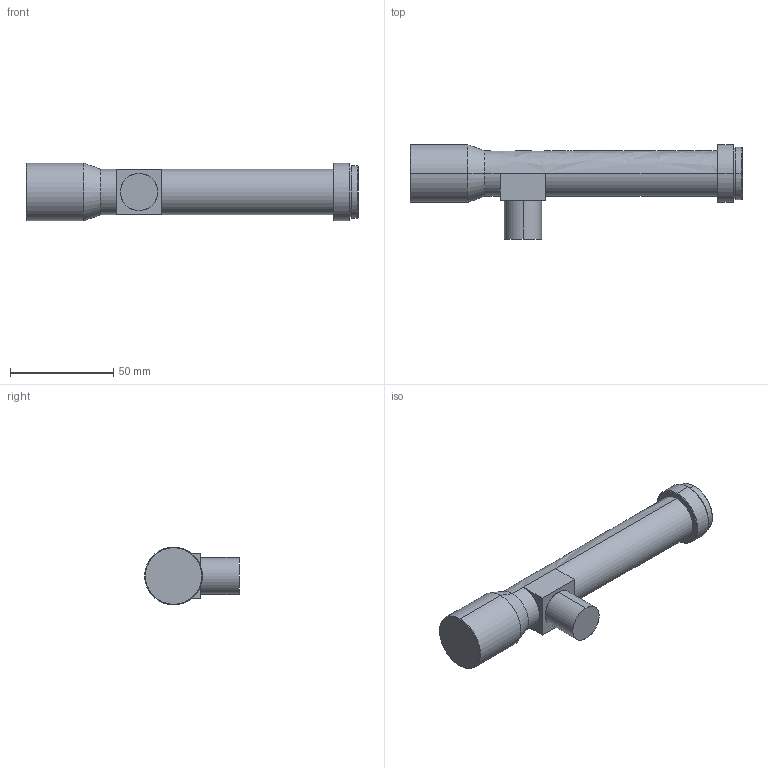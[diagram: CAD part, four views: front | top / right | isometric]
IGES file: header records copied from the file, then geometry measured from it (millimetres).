
Start section: SolidWorks IGES file using analytic representation for surfaces
Global section: file name: C:\Users\16255\Desktop\WWH60-110CT\WWH60-110CT IGESͼ.IGS,; native system: SolidWorks 2014; preprocessor: SolidWorks 2014; author: 16255; date: 191028.161850; units: millimetre
Bounding box: 161 x 45.9 x 28 mm (x, y, z)
Surface area: 15006.2 mm2 (no closed solid volume)
Topology: 0 solids, 0 shells, 34 faces, 466 edges, 466 vertices
Faces by surface type: revolution 23, bspline 11
